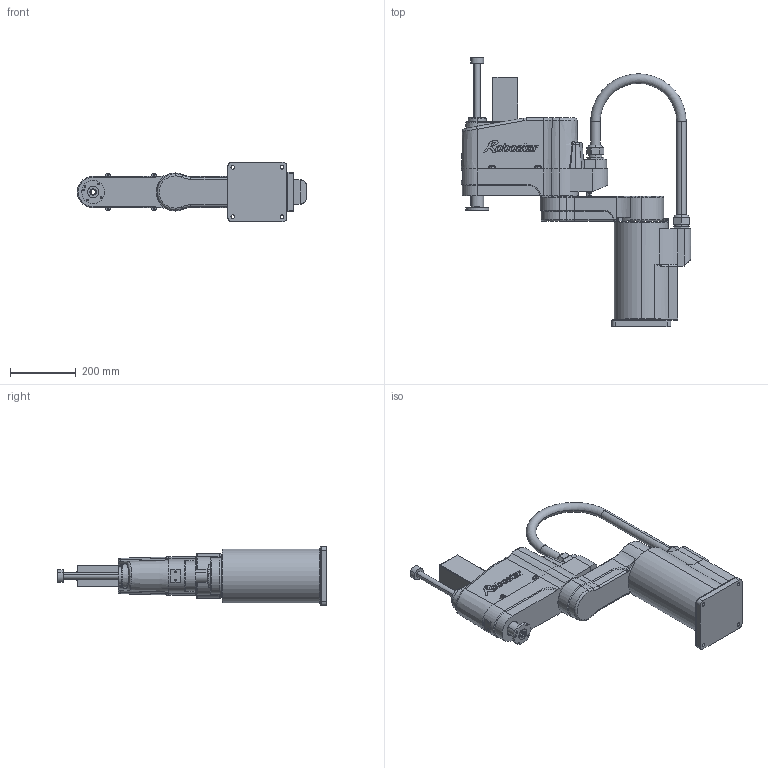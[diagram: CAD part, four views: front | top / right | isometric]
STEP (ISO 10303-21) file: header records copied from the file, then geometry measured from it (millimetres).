
FILE_DESCRIPTION (( 'STEP AP203' ), '1' );
FILE_NAME ('RSA50-4A(寇何).STEP', '2021-05-18T01:06:09', ( '唱侩褥' ), ( '' ), 'SwSTEP 2.0', 'SolidWorks 2017', '' );
FILE_SCHEMA (( 'CONFIG_CONTROL_DESIGN' ));
Length unit declared in the file: millimetre
Products named in the file (6): BNS2020_200ST_Shaft_RBSA60-4A(諼睡)_晦獄 撲薑; Base_RSA50-4A(諼睡)_晦獄 撲薑; B_Arm_RSA50-4A(諼睡)_晦獄 撲薑; RSA50-4A(諼睡); A_Arm_RBSA50-4A(諼睡)_晦獄 撲薑; Cable_RSA50-4A_晦獄 撲薑
Assembly tree (5 placements, depth 2):
  RSA50-4A(諼睡)
    Base_RSA50-4A(諼睡)_晦獄 撲薑
    B_Arm_RSA50-4A(諼睡)_晦獄 撲薑
    BNS2020_200ST_Shaft_RBSA60-4A(諼睡)_晦獄 撲薑
    A_Arm_RBSA50-4A(諼睡)_晦獄 撲薑
    Cable_RSA50-4A_晦獄 撲薑
Bounding box: 698 x 819.5 x 180 mm (x, y, z)
Volume: 20566881.5 mm3; surface area: 946407.3 mm2
Topology: 7 solids, 7 shells, 1487 faces, 4086 edges, 2658 vertices
Faces by surface type: plane 1147, cylinder 209, torus 77, bspline 28, cone 22, sphere 4
Entity records: 48663 total; most frequent: CARTESIAN_POINT 10148, ORIENTED_EDGE 8148, DIRECTION 7452, EDGE_CURVE 4074, VECTOR 3408, LINE 3408, VERTEX_POINT 2658, AXIS2_PLACEMENT_3D 2022
